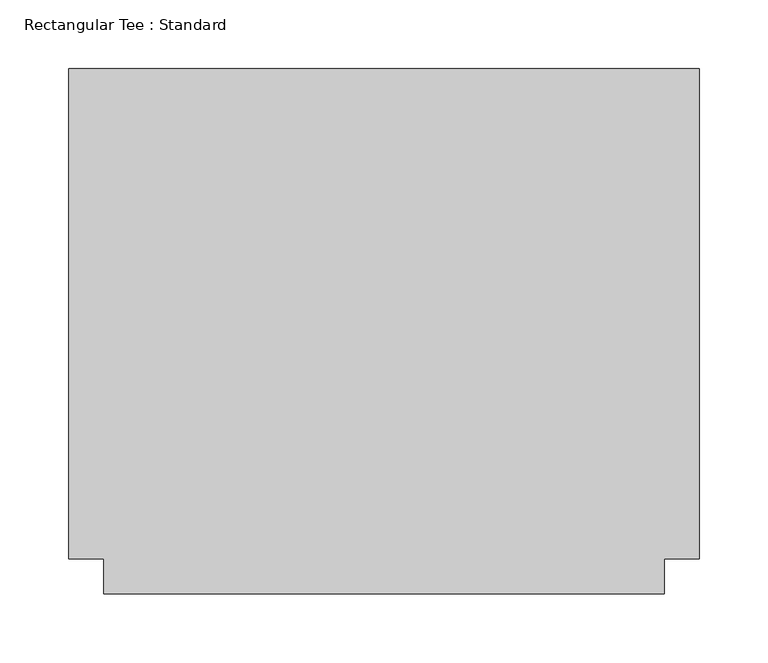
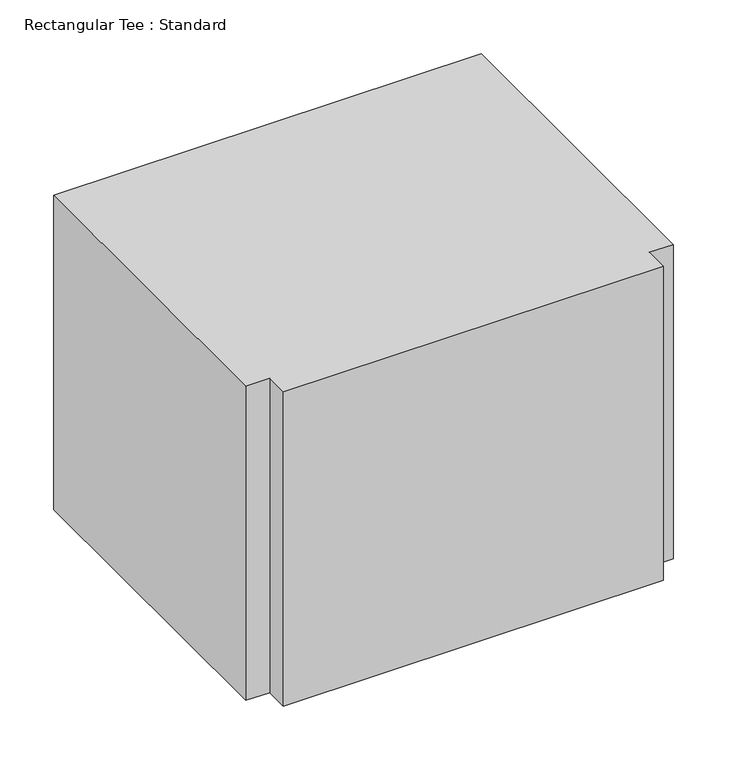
"""IFC4 building model written with IfcOpenShell, lengths in millimetres: duct fitting geometry, Rectangular Tee : Standard."""

from ifc_helpers import new_model, si_unit, frame, origin, place, context, project, spatial, polyline, outline, extrude, source, transform, mapped, element, save


def rectangular_tee_standard_d2fbf457(model_context):
    return source(origin(), model_context, "Body", "SweptSolid", [
        extrude(outline(polyline([(-228.6, -177.8), (-228.6, 177.8), (228.6, 177.8), (228.6, -177.8), (203.2, -177.8), (203.2, -203.2), (-203.2, -203.2), (-203.2, -177.8), (-228.6, -177.8)])), frame((0.0, 0.0, -177.8), z_axis=(0.0, 0.0, 1.0), x_axis=(1.0, 0.0, 0.0)), (0.0, 0.0, 1.0), 355.6),
    ])


if __name__ == "__main__":
    model = new_model("IFC4")
    model_context = context("Model", 3, world=origin())
    ifc_project = project(units=[si_unit("LENGTHUNIT", "METRE", prefix="MILLI")], contexts=[model_context])
    site = spatial("IfcSite", under=ifc_project)
    building = spatial("IfcBuilding", under=site)
    placement = place(None, origin())
    rectangular_tee_standard_shape = rectangular_tee_standard_d2fbf457(model_context)
    element("IfcDuctFitting", 1, ObjectType="Rectangular Tee : Standard", at=placement, inside=building, context=model_context, shape_type="MappedRepresentation", body=[
        mapped(rectangular_tee_standard_shape, transform((0.0, 0.0, 0.0), x_axis=(1.0, 0.0, 0.0), y_axis=(0.0, 1.0, 0.0), z_axis=(0.0, 0.0, 1.0))),
    ])
    save(model, "model.ifc")
